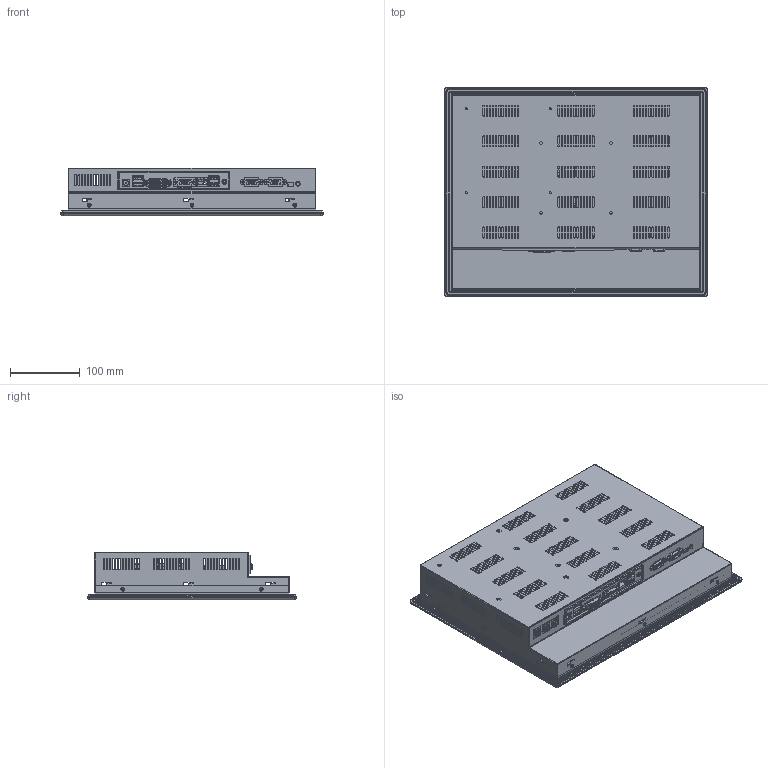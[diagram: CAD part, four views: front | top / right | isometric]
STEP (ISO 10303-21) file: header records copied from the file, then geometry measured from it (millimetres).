
FILE_DESCRIPTION (( 'STEP AP214' ), '1' );
FILE_NAME ('CPCV5-150WF_rev2_菩澄函版凳_胶跑颇老侩.STEP', '2018-12-04T06:38:23', ( 'luke' ), ( '' ), 'SwSTEP 2.0', 'SolidWorks 2016', '' );
FILE_SCHEMA (( 'AUTOMOTIVE_DESIGN' ));
Length unit declared in the file: millimetre
Products named in the file (1): CPCV5-150WF_rev2_菩澄函版凳_胶跑颇老侩
Bounding box: 376 x 300 x 68.2 mm (x, y, z)
Surface area: 741886.8 mm2 (no closed solid volume)
Topology: 0 solids, 110 shells, 1936 faces, 8433 edges, 6323 vertices
Faces by surface type: plane 1109, cylinder 750, cone 34, bspline 22, torus 15, sphere 6
Full cylindrical faces by diameter (mm): 1 x21, 2 x1, 2.286 x7, 2.3 x2, 2.6 x2, 3 x4, 3.4 x2, 3.6 x1, 4 x5, 5 x1, 5.4 x10, 6 x1, 6.5 x1, 7 x3, 7.3 x1, 8 x1
Entity records: 109710 total; most frequent: CARTESIAN_POINT 19820, DIRECTION 13519, ORIENTED_EDGE 12603, EDGE_CURVE 8302, VERTEX_POINT 6291, VECTOR 6009, LINE 6009, AXIS2_PLACEMENT_3D 3755
